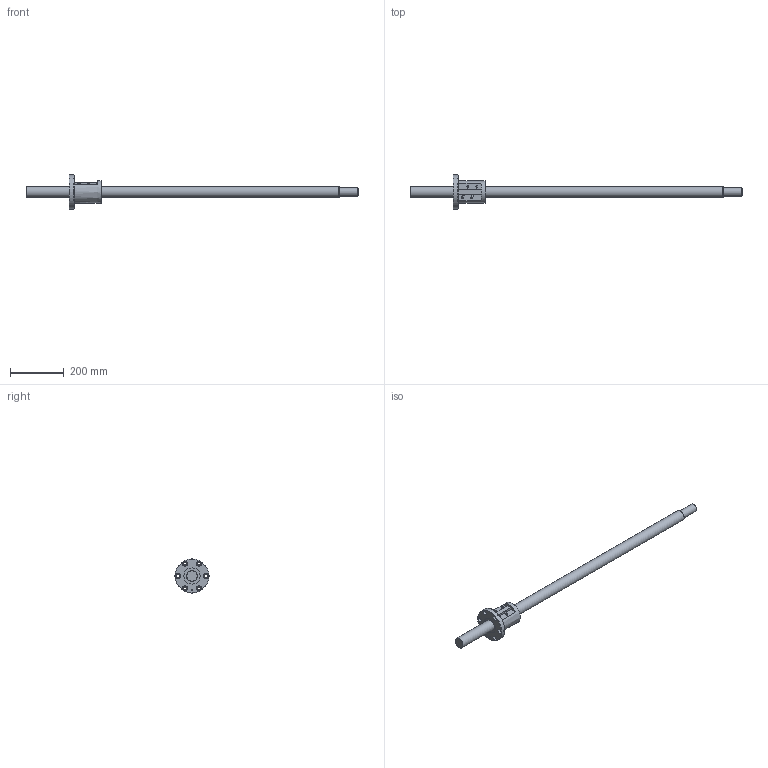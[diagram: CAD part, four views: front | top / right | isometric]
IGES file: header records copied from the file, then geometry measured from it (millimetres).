
Start section: Data from Parasolid IGES Translator 26.0.171, Copyright(c) 2006 Siemens PLM Software. All Rights Reserved.
Global section: file name: BNF4012-5RRG1+1230LC5A(00).igs; native system: By Siemens PLM Incorporated; preprocessor: XPlus GENERIC/IGES 26.0.171; author: Noname; organization: Noname; date: 20240715.075016; units: millimetre
Bounding box: 1230 x 126 x 126 mm (x, y, z)
Surface area: 234329.1 mm2 (no closed solid volume)
Topology: 0 solids, 0 shells, 70 faces, 322 edges, 288 vertices
Faces by surface type: revolution 46, extrusion 24
